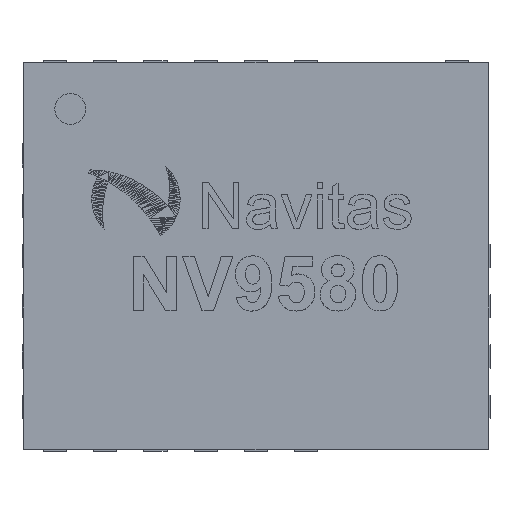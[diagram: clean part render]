
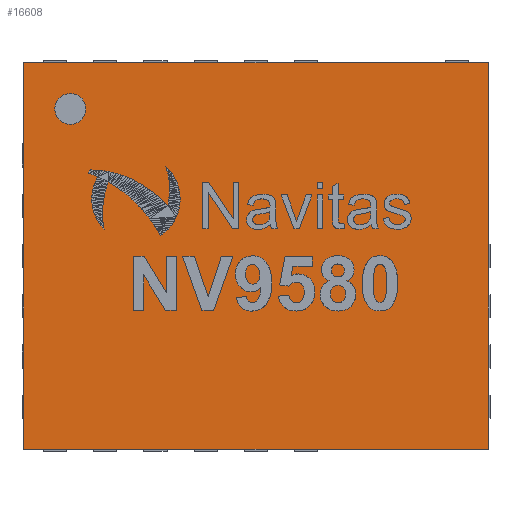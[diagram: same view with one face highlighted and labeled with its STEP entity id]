
A CAD part, top view. The second image highlights one B-rep face of the part: STEP entity #16608.
In plain terms, the highlighted planar face has unit normal (0, 0, 1).
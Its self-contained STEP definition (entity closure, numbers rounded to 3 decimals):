
#708=FACE_OUTER_BOUND('',#1981,.T.);
#1981=EDGE_LOOP('',(#10782,#10783,#10784,#10785));
#3263=LINE('',#23201,#5235);
#3267=LINE('',#23208,#5239);
#3270=LINE('',#23215,#5242);
#3272=LINE('',#23218,#5244);
#5235=VECTOR('',#19023,10.);
#5239=VECTOR('',#19029,10.);
#5242=VECTOR('',#19036,10.);
#5244=VECTOR('',#19040,10.);
#7207=VERTEX_POINT('',#23198);
#7208=VERTEX_POINT('',#23200);
#7210=VERTEX_POINT('',#23206);
#7212=VERTEX_POINT('',#23214);
#8376=EDGE_CURVE('',#7207,#7208,#3263,.T.);
#8380=EDGE_CURVE('',#7210,#7207,#3267,.T.);
#8383=EDGE_CURVE('',#7208,#7212,#3270,.T.);
#8385=EDGE_CURVE('',#7212,#7210,#3272,.T.);
#10782=ORIENTED_EDGE('',*,*,#8385,.F.);
#10783=ORIENTED_EDGE('',*,*,#8383,.F.);
#10784=ORIENTED_EDGE('',*,*,#8376,.F.);
#10785=ORIENTED_EDGE('',*,*,#8380,.F.);
#15543=PLANE('',#17921);
#16608=ADVANCED_FACE('',(#708),#15543,.F.);
#17921=AXIS2_PLACEMENT_3D('',#23219,#19041,#19042);
#19023=DIRECTION('',(0.,1.,0.));
#19029=DIRECTION('',(-1.,0.,0.));
#19036=DIRECTION('',(1.,0.,0.));
#19040=DIRECTION('',(0.,-1.,0.));
#19041=DIRECTION('center_axis',(0.,0.,-1.));
#19042=DIRECTION('ref_axis',(-1.,0.,0.));
#23198=CARTESIAN_POINT('',(-6.,0.,1.7));
#23200=CARTESIAN_POINT('',(-6.,5.,1.7));
#23201=CARTESIAN_POINT('',(-6.,0.,1.7));
#23206=CARTESIAN_POINT('',(0.,0.,1.7));
#23208=CARTESIAN_POINT('',(0.,0.,1.7));
#23214=CARTESIAN_POINT('',(0.,5.,1.7));
#23215=CARTESIAN_POINT('',(-6.,5.,1.7));
#23218=CARTESIAN_POINT('',(0.,5.,1.7));
#23219=CARTESIAN_POINT('Origin',(-3.,2.5,1.7));
